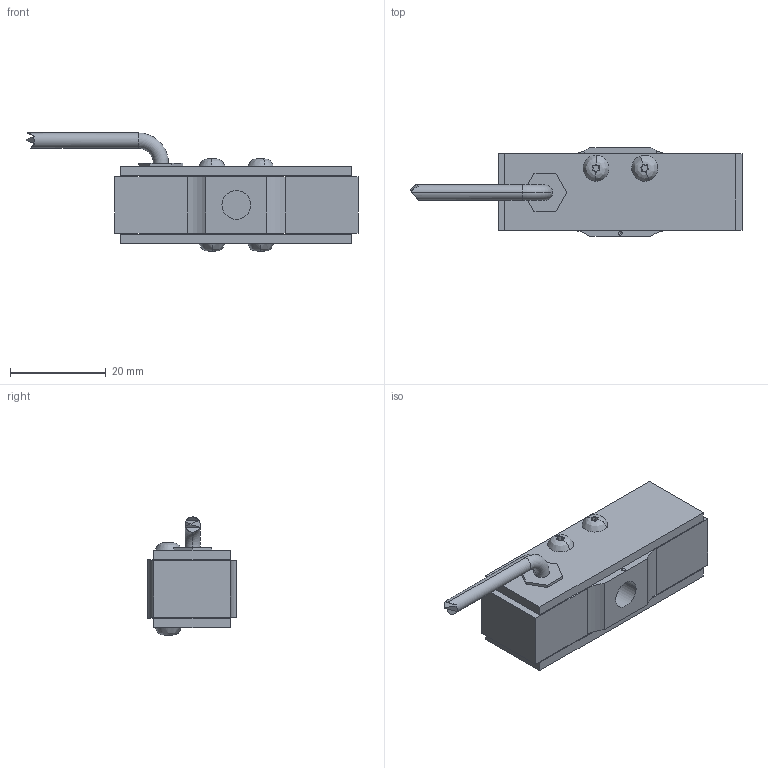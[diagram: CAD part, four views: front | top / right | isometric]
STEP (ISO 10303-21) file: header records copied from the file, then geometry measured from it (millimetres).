
FILE_DESCRIPTION (( 'STEP AP203' ), '1' );
FILE_NAME ('Interface SML-110N thru -450N.STEP', '2012-05-07T22:42:51', ( ' ' ), ( '' ), 'SwSTEP 2.0', 'SolidWorks 2002349', '' );
FILE_SCHEMA (( 'CONFIG_CONTROL_DESIGN' ));
Length unit declared in the file: inch
Products named in the file (1): Interface SML-110N thru -450N
Bounding box: 69.31 x 18.54 x 24.67 mm (x, y, z)
Volume: 13247.7 mm3; surface area: 7041.2 mm2
Topology: 1 solids, 1 shells, 138 faces, 378 edges, 248 vertices
Faces by surface type: cylinder 74, plane 50, bspline 8, cone 4, torus 2
Entity records: 5184 total; most frequent: CARTESIAN_POINT 1767, ORIENTED_EDGE 748, DIRECTION 634, EDGE_CURVE 374, VERTEX_POINT 248, AXIS2_PLACEMENT_3D 227, LINE 180, VECTOR 180
